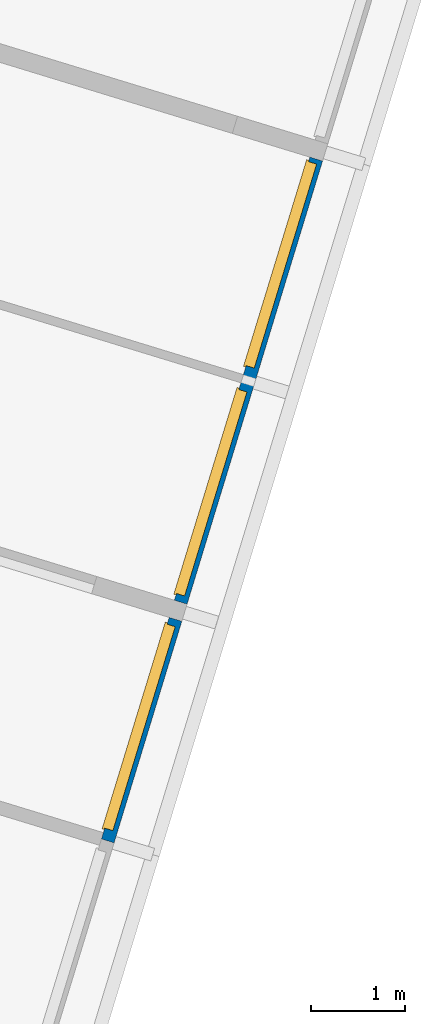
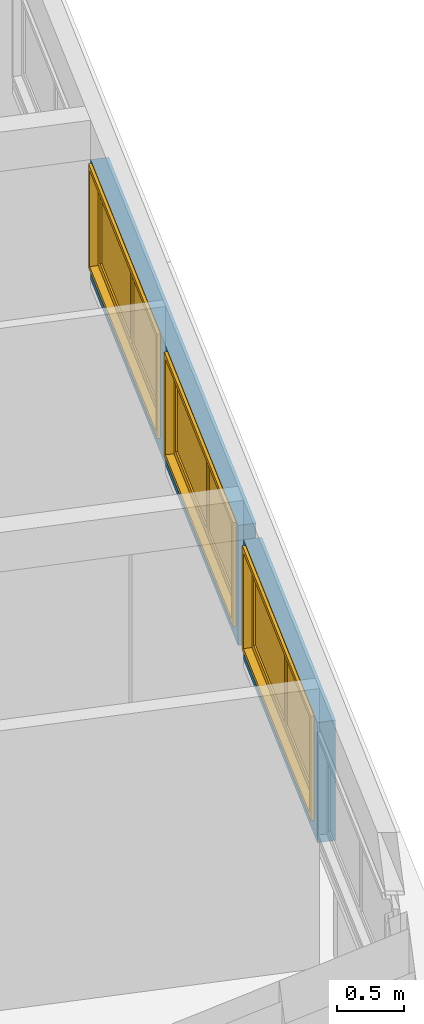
# One storey, part 8 of 18: 3 windows, 1 wall, 3 openings.
"""IFC2X3 building model written with IfcOpenShell, lengths in millimetres."""

from ifc_helpers import new_model, entity, si_unit, converted_unit, derived_unit, money_unit, direction, frame, origin_with_axes, place, context, subcontext, project, spatial, open_shell, faceted_brep, surface_model, source, transform, mapped, material, type_object, element, fill, save


model = new_model("IFC2X3")

# Units and contexts
model_context = context("Model", 3, precision=0.01, world=origin_with_axes(), true_north=direction((0.0, 1.0)))
body_context = subcontext(model_context, "Body", "Model", "MODEL_VIEW")
ifc_project = project(units=[si_unit("LENGTHUNIT", "METRE", prefix="MILLI"), si_unit("AREAUNIT", "SQUARE_METRE"), si_unit("VOLUMEUNIT", "CUBIC_METRE"), converted_unit("PLANEANGLEUNIT", "DEGREE", entity("IfcPlaneAngleMeasure", 0.0174532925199), si_unit("PLANEANGLEUNIT", "RADIAN"), dimensions=[0, 0, 0, 0, 0, 0, 0]), money_unit("USD"), converted_unit("TIMEUNIT", "Year", entity("IfcTimeMeasure", 31556926.0), si_unit("TIMEUNIT", "SECOND"), dimensions=[0, 0, 1, 0, 0, 0, 0]), si_unit("MASSUNIT", "GRAM", prefix="KILO"), si_unit("THERMODYNAMICTEMPERATUREUNIT", "DEGREE_CELSIUS"), si_unit("LUMINOUSINTENSITYUNIT", "LUMEN"), si_unit("ENERGYUNIT", "JOULE", prefix="MEGA"), derived_unit("THERMALCONDUCTANCEUNIT", [(si_unit("POWERUNIT", "WATT"), 1), (si_unit("LENGTHUNIT", "METRE"), -1), (si_unit("THERMODYNAMICTEMPERATUREUNIT", "KELVIN"), -1)]), derived_unit("SPECIFICHEATCAPACITYUNIT", [(si_unit("ENERGYUNIT", "JOULE"), 1), (si_unit("MASSUNIT", "GRAM", prefix="KILO"), -1), (si_unit("THERMODYNAMICTEMPERATUREUNIT", "KELVIN"), -1)]), derived_unit("MASSDENSITYUNIT", [(si_unit("MASSUNIT", "GRAM", prefix="KILO"), 1), (si_unit("VOLUMEUNIT", "CUBIC_METRE"), -1)])], contexts=[model_context])

# Site, building, storey, space
site_placement = place(None, frame((0.0, 0.0, 0.0), z_axis=(0.0, 0.0, 1.0), x_axis=(0.956304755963, -0.292371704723, 0.0)))
site = spatial("IfcSite", under=ifc_project, at=site_placement, Name="Site", CompositionType="ELEMENT")
building_placement = place(site_placement, origin_with_axes())
building = spatial("IfcBuilding", under=site, at=building_placement, Name="Building", CompositionType="ELEMENT")
storey_placement = place(building_placement, origin_with_axes())
storey = spatial("IfcBuildingStorey", under=building, at=storey_placement, Name="Pavimento tipo", CompositionType="ELEMENT", Elevation=0.0)
space_placement = place(storey_placement, frame((2841.71099896, 14449.9999947, 0.0), z_axis=(0.0, 0.0, 1.0), x_axis=(6.32291681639e-07, -1.0, 0.0)))
space = spatial("IfcSpace", under=storey, at=space_placement, Name="02", CompositionType="ELEMENT", InteriorOrExteriorSpace="INTERNAL")

# Wall, openings, windows
ifc_material = material(Name="Tijolo - Estrutural")
wall_type = type_object("IfcWallType", Name="Tijolo - Estrutural 140", PredefinedType="NOTDEFINED")
wall_placement = place(space_placement, frame((7554.98886297, 6599.99767243, 1100.0), z_axis=(0.0, 0.0, 1.0), x_axis=(-1.0, 6.32291681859e-07, 0.0)))
wall = element("IfcWall", 1, at=wall_placement, inside=space, type_object=wall_type, material=ifc_material, Name="Apt 02 - Parede 41", context=body_context, shape_type="Brep", body=[
    faceted_brep([(2454.97472944, 140.0, 0.0), (0.0, 140.0, 0.0), (0.0, 140.0, 1100.0), (2454.97472944, 140.0, 1100.0), (120.000011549, 140.0, 150.0), (2380.00001155, 140.0, 150.0), (2380.00001155, 140.0, 1075.0), (120.000011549, 140.0, 1075.0), (2454.97472944, 0.0, 0.0), (0.0, 0.0, 0.0), (0.0, 0.0, 1100.0), (2454.97472944, 0.0, 1100.0), (120.000011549, 0.0, 150.0), (2380.00001155, 0.0, 150.0), (2380.00001155, 0.0, 1075.0), (120.000011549, 0.0, 1075.0)], [[[0, 1, 2, 3], [4, 5, 6, 7]], [[8, 9, 1, 0]], [[1, 9, 10, 2]], [[3, 2, 10, 11]], [[11, 8, 0, 3]], [[5, 4, 12, 13]], [[14, 6, 5, 13]], [[15, 7, 6, 14]], [[4, 7, 15, 12]], [[11, 10, 9, 8], [15, 14, 13, 12]]]),
    faceted_brep([(2644.97472944, 140.0, 1100.0), (7554.97472944, 140.0, 1100.0), (7554.97472944, 140.0, 0.0), (2644.97472944, 140.0, 0.0), (4979.97281133, 140.0, 1075.0), (2719.97281133, 140.0, 1075.0), (2719.97281133, 140.0, 150.0), (4979.97281133, 140.0, 150.0), (5245.00001155, 140.0, 150.0), (7505.00001155, 140.0, 150.0), (7505.00001155, 140.0, 1075.0), (5245.00001155, 140.0, 1075.0), (2644.97472944, 0.0, 1100.0), (7554.97472944, 0.0, 1100.0), (7554.97472944, 0.0, 0.0), (2644.97472944, 0.0, 0.0), (4979.97281133, 0.0, 1075.0), (2719.97281133, 0.0, 1075.0), (2719.97281133, 0.0, 150.0), (4979.97281133, 0.0, 150.0), (5245.00001155, 0.0, 150.0), (7505.00001155, 0.0, 150.0), (7505.00001155, 0.0, 1075.0), (5245.00001155, 0.0, 1075.0)], [[[0, 1, 2, 3], [4, 5, 6, 7], [8, 9, 10, 11]], [[12, 13, 1, 0]], [[2, 1, 13, 14]], [[3, 2, 14, 15]], [[3, 15, 12, 0]], [[4, 16, 17, 5]], [[17, 18, 6, 5]], [[18, 19, 7, 6]], [[7, 19, 16, 4]], [[9, 8, 20, 21]], [[22, 10, 9, 21]], [[23, 11, 10, 22]], [[8, 11, 23, 20]], [[15, 14, 13, 12], [19, 18, 17, 16], [23, 22, 21, 20]]]),
])
opening_1_placement = place(wall_placement, frame((1250.00001155, 0.0, 150.0), z_axis=(0.0, 0.0, 1.0), x_axis=(1.0, 0.0, 0.0)))
opening_1 = element("IfcOpeningElement", 2, at=opening_1_placement, cuts=wall, Name="Apt 02 - J10", context=body_context, shape_type="Brep", body=[
    faceted_brep([(1145.0, 141.0, -15.0), (-1145.0, 141.0, -15.0), (-1145.0, 141.0, 940.0), (1145.0, 141.0, 940.0), (1145.0, 140.0, -15.0), (-1145.0, 140.0, -15.0), (-1145.0, 140.0, 940.0), (1145.0, 140.0, 940.0), (-1130.0, 140.0, 925.0), (1130.0, 140.0, 925.0), (1130.0, 140.0, 0.0), (-1130.0, 140.0, 0.0), (-1130.0, 50.0, 925.0), (-1130.0, -1.0, 925.0), (1130.0, -1.0, 925.0), (1130.0, 50.0, 925.0), (1130.0, 50.0, 0.0), (1130.0, -1.0, 0.0), (-1130.0, -1.0, 0.0), (-1130.0, 50.0, 0.0)], [[[0, 1, 2, 3]], [[4, 5, 1, 0]], [[5, 6, 2, 1]], [[6, 7, 3, 2]], [[7, 4, 0, 3]], [[6, 5, 4, 7], [8, 9, 10, 11]], [[9, 8, 12, 13, 14, 15]], [[10, 9, 15, 16]], [[11, 10, 16, 17, 18, 19]], [[8, 11, 19, 12]], [[12, 19, 18, 13]], [[13, 18, 17, 14]], [[16, 15, 14, 17]]]),
])
opening_2_placement = place(wall_placement, frame((3849.97281133, 0.0, 150.0), z_axis=(0.0, 0.0, 1.0), x_axis=(1.0, 0.0, 0.0)))
opening_2 = element("IfcOpeningElement", 3, at=opening_2_placement, cuts=wall, Name="Apt 02 - J11", context=body_context, shape_type="Brep", body=[
    faceted_brep([(-1145.0, 141.0, 940.0), (1145.0, 141.0, 940.0), (1145.0, 141.0, -15.0), (-1145.0, 141.0, -15.0), (-1145.0, 140.0, 940.0), (1145.0, 140.0, 940.0), (1145.0, 140.0, -15.0), (-1145.0, 140.0, -15.0), (-1130.0, 140.0, 925.0), (1130.0, 140.0, 925.0), (1130.0, 140.0, 0.0), (-1130.0, 140.0, 0.0), (-1130.0, 50.0, 925.0), (-1130.0, -0.999999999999, 925.0), (1130.0, -0.999999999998, 925.0), (1130.0, 50.0, 925.0), (1130.0, 50.0, 0.0), (1130.0, -0.999999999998, 0.0), (-1130.0, -0.999999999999, 0.0), (-1130.0, 50.0, 0.0)], [[[0, 1, 2, 3]], [[4, 5, 1, 0]], [[5, 6, 2, 1]], [[6, 7, 3, 2]], [[7, 4, 0, 3]], [[6, 5, 4, 7], [8, 9, 10, 11]], [[9, 8, 12, 13, 14, 15]], [[10, 9, 15, 16]], [[11, 10, 16, 17, 18, 19]], [[8, 11, 19, 12]], [[12, 19, 18, 13]], [[13, 18, 17, 14]], [[16, 15, 14, 17]]]),
])
opening_3_placement = place(wall_placement, frame((6375.00001155, 0.0, 150.0), z_axis=(0.0, 0.0, 1.0), x_axis=(1.0, 0.0, 0.0)))
opening_3 = element("IfcOpeningElement", 4, at=opening_3_placement, cuts=wall, Name="Apt 02 - J12", context=body_context, shape_type="Brep", body=[
    faceted_brep([(-1145.0, 141.0, 940.0), (1145.0, 141.0, 940.0), (1145.0, 141.0, -15.0), (-1145.0, 141.0, -15.0), (-1145.0, 140.0, 940.0), (1145.0, 140.0, 940.0), (1145.0, 140.0, -15.0), (-1145.0, 140.0, -15.0), (-1130.0, 140.0, 925.0), (1130.0, 140.0, 925.0), (1130.0, 140.0, 0.0), (-1130.0, 140.0, 0.0), (-1130.0, 50.0, 925.0), (-1130.0, -0.999999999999, 925.0), (1130.0, -0.999999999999, 925.0), (1130.0, 50.0, 925.0), (1130.0, 50.0, 0.0), (1130.0, -0.999999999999, 0.0), (-1130.0, -0.999999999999, 0.0), (-1130.0, 50.0, 0.0)], [[[0, 1, 2, 3]], [[4, 5, 1, 0]], [[5, 6, 2, 1]], [[6, 7, 3, 2]], [[7, 4, 0, 3]], [[6, 5, 4, 7], [8, 9, 10, 11]], [[9, 8, 12, 13, 14, 15]], [[10, 9, 15, 16]], [[11, 10, 16, 17, 18, 19]], [[8, 11, 19, 12]], [[12, 19, 18, 13]], [[13, 18, 17, 14]], [[16, 15, 14, 17]]]),
])
window_style_1 = type_object("IfcWindowStyle", Name="Janela 26", ConstructionType="NOTDEFINED", OperationType="DOUBLE_PANEL_VERTICAL", ParameterTakesPrecedence=False, Sizeable=False)
shared_shape_1 = source(origin_with_axes(), body_context, "Body", "SurfaceModel", [
    faceted_brep([(1130.0, 0.0, 0.0), (-1130.0, 0.0, 0.0), (-1130.0, 40.0, 0.0), (1130.0, 40.0, 0.0), (1130.0, 0.0, 925.0), (-1130.0, 0.0, 925.0), (1105.0, 0.0, 25.0), (-1105.0, 0.0, 25.0), (-1105.0, 0.0, 900.0), (1105.0, 0.0, 900.0), (-1130.0, 40.0, 925.0), (1130.0, 40.0, 925.0), (1105.0, 40.0, 25.0), (1105.0, 40.0, 900.0), (-1105.0, 40.0, 900.0), (-1105.0, 40.0, 25.0)], [[[0, 1, 2, 3]], [[0, 4, 5, 1], [6, 7, 8, 9]], [[1, 5, 10, 2]], [[3, 2, 10, 11], [12, 13, 14, 15]], [[4, 0, 3, 11]], [[5, 4, 11, 10]], [[7, 6, 12, 15]], [[8, 7, 15, 14]], [[9, 8, 14, 13]], [[6, 9, 13, 12]]]),
    faceted_brep([(1145.0, 65.0, -15.0), (1145.0, 40.0, -15.0), (1105.0, 40.0, 25.0), (1105.0, 65.0, 25.0), (1145.0, 65.0, 940.0), (1145.0, 40.0, 940.0), (1105.0, 40.0, 900.0), (1105.0, 65.0, 900.0)], [[[0, 1, 2, 3]], [[4, 5, 1, 0]], [[1, 5, 6, 2]], [[3, 2, 6, 7]], [[0, 3, 7, 4]], [[7, 6, 5, 4]]]),
    faceted_brep([(-1145.0, 65.0, 940.0), (-1145.0, 40.0, 940.0), (-1105.0, 40.0, 900.0), (-1105.0, 65.0, 900.0), (-1145.0, 65.0, -15.0), (-1145.0, 40.0, -15.0), (-1105.0, 40.0, 25.0), (-1105.0, 65.0, 25.0)], [[[0, 1, 2, 3]], [[4, 5, 1, 0]], [[1, 5, 6, 2]], [[3, 2, 6, 7]], [[0, 3, 7, 4]], [[7, 6, 5, 4]]]),
    faceted_brep([(-1145.0, 65.0, -15.0), (-1145.0, 40.0, -15.0), (-1105.0, 40.0, 25.0), (-1105.0, 65.0, 25.0), (1145.0, 65.0, -15.0), (1145.0, 40.0, -15.0), (1105.0, 40.0, 25.0), (1105.0, 65.0, 25.0)], [[[0, 1, 2, 3]], [[4, 5, 1, 0]], [[1, 5, 6, 2]], [[3, 2, 6, 7]], [[0, 3, 7, 4]], [[7, 6, 5, 4]]]),
    faceted_brep([(1145.0, 65.0, 940.0), (1145.0, 40.0, 940.0), (1105.0, 40.0, 900.0), (1105.0, 65.0, 900.0), (-1145.0, 65.0, 940.0), (-1145.0, 40.0, 940.0), (-1105.0, 40.0, 900.0), (-1105.0, 65.0, 900.0)], [[[0, 1, 2, 3]], [[4, 5, 1, 0]], [[1, 5, 6, 2]], [[3, 2, 6, 7]], [[0, 3, 7, 4]], [[7, 6, 5, 4]]]),
    faceted_brep([(1045.0, -50.0, 840.0), (1130.0, -50.0, 840.0), (1130.0, 0.0, 840.0), (1045.0, 0.0, 840.0), (1045.0, -50.0, 85.0), (1130.0, -50.0, 85.0), (1130.0, 0.0, 85.0), (1045.0, 0.0, 85.0)], [[[0, 1, 2, 3]], [[0, 4, 5, 1]], [[1, 5, 6, 2]], [[3, 2, 6, 7]], [[4, 0, 3, 7]], [[5, 4, 7, 6]]]),
    faceted_brep([(-1045.0, -50.0, 85.0), (-1130.0, -50.0, 85.0), (-1130.0, 0.0, 85.0), (-1045.0, 0.0, 85.0), (-1045.0, -50.0, 840.0), (-1130.0, -50.0, 840.0), (-1130.0, 0.0, 840.0), (-1045.0, 0.0, 840.0)], [[[0, 1, 2, 3]], [[0, 4, 5, 1]], [[1, 5, 6, 2]], [[3, 2, 6, 7]], [[4, 0, 3, 7]], [[5, 4, 7, 6]]]),
    faceted_brep([(1045.0, -50.0, 85.0), (1130.0, -50.0, 85.0), (1130.0, 0.0, 85.0), (1045.0, 0.0, 85.0), (25.0, -50.0, 85.0), (-25.0, -50.0, 85.0), (-1045.0, -50.0, 85.0), (-1130.0, -50.0, 85.0), (-1130.0, -50.0, 0.0), (1130.0, -50.0, 0.0), (1130.0, 0.0, 0.0), (-1130.0, 0.0, 0.0), (-1130.0, 0.0, 85.0), (-1045.0, 0.0, 85.0), (-25.0, 0.0, 85.0), (25.0, 0.0, 85.0)], [[[0, 1, 2, 3]], [[0, 4, 5, 6, 7, 8, 9, 1]], [[1, 9, 10, 2]], [[3, 2, 10, 11, 12, 13, 14, 15]], [[4, 0, 3, 15]], [[5, 4, 15, 14]], [[6, 5, 14, 13]], [[7, 6, 13, 12]], [[8, 7, 12, 11]], [[9, 8, 11, 10]]]),
    faceted_brep([(25.0, -50.0, 840.0), (-25.0, -50.0, 840.0), (-25.0, 0.0, 840.0), (25.0, 0.0, 840.0), (1045.0, -50.0, 840.0), (1130.0, -50.0, 840.0), (1130.0, -50.0, 925.0), (-1130.0, -50.0, 925.0), (-1130.0, -50.0, 840.0), (-1045.0, -50.0, 840.0), (-1045.0, 0.0, 840.0), (-1130.0, 0.0, 840.0), (-1130.0, 0.0, 925.0), (1130.0, 0.0, 925.0), (1130.0, 0.0, 840.0), (1045.0, 0.0, 840.0)], [[[0, 1, 2, 3]], [[0, 4, 5, 6, 7, 8, 9, 1]], [[1, 9, 10, 2]], [[3, 2, 10, 11, 12, 13, 14, 15]], [[4, 0, 3, 15]], [[5, 4, 15, 14]], [[6, 5, 14, 13]], [[7, 6, 13, 12]], [[8, 7, 12, 11]], [[9, 8, 11, 10]]]),
    faceted_brep([(25.0, -50.0, 85.0), (-25.0, -50.0, 85.0), (-25.0, 0.0, 85.0), (25.0, 0.0, 85.0), (25.0, -50.0, 840.0), (-25.0, -50.0, 840.0), (-25.0, 0.0, 840.0), (25.0, 0.0, 840.0)], [[[0, 1, 2, 3]], [[0, 4, 5, 1]], [[1, 5, 6, 2]], [[3, 2, 6, 7]], [[4, 0, 3, 7]], [[5, 4, 7, 6]]]),
    surface_model("IfcShellBasedSurfaceModel", [(-25.0, -35.0, 85.0), (-25.0, -35.0, 840.0), (-1045.0, -35.0, 840.0), (-1045.0, -35.0, 85.0)], [open_shell([[[0, 1, 2, 3]]])]),
    surface_model("IfcShellBasedSurfaceModel", [(-25.0, -15.0, 85.0), (-1045.0, -15.0, 85.0), (-1045.0, -15.0, 840.0), (-25.0, -15.0, 840.0)], [open_shell([[[0, 1, 2, 3]]])]),
    surface_model("IfcShellBasedSurfaceModel", [(1045.0, -35.0, 85.0), (1045.0, -35.0, 840.0), (25.0, -35.0, 840.0), (25.0, -35.0, 85.0)], [open_shell([[[0, 1, 2, 3]]])]),
    surface_model("IfcShellBasedSurfaceModel", [(1045.0, -15.0, 85.0), (25.0, -15.0, 85.0), (25.0, -15.0, 840.0), (1045.0, -15.0, 840.0)], [open_shell([[[0, 1, 2, 3]]])]),
])
window_1_placement = place(opening_1_placement, frame((-1130.0, 0.0, 0.0), z_axis=(0.0, 0.0, 1.0), x_axis=(1.0, 0.0, 0.0)))
window_1 = element("IfcWindow", 5, at=window_1_placement, inside=space, type_object=window_style_1, Name="Apt 02 - J10", OverallHeight=925.0, OverallWidth=2260.0, context=body_context, shape_type="MappedRepresentation", body=[
    mapped(shared_shape_1, transform((1130.0, 100.0, 0.0))),
])
fill(opening_1, window_1)
window_style_2 = type_object("IfcWindowStyle", Name="Janela 26", ConstructionType="NOTDEFINED", OperationType="DOUBLE_PANEL_VERTICAL", ParameterTakesPrecedence=False, Sizeable=False)
shared_shape_2 = source(origin_with_axes(), body_context, "Body", "SurfaceModel", [
    faceted_brep([(-1130.0, 0.0, 0.0), (-1130.0, 40.0, 0.0), (1130.0, 40.0, 0.0), (1130.0, 0.0, 0.0), (-1130.0, 0.0, 925.0), (-1130.0, 40.0, 925.0), (1130.0, 40.0, 925.0), (-1105.0, 40.0, 25.0), (1105.0, 40.0, 25.0), (1105.0, 40.0, 900.0), (-1105.0, 40.0, 900.0), (1130.0, 0.0, 925.0), (-1105.0, 0.0, 25.0), (-1105.0, 0.0, 900.0), (1105.0, 0.0, 900.0), (1105.0, 0.0, 25.0)], [[[0, 1, 2, 3]], [[4, 5, 1, 0]], [[1, 5, 6, 2], [7, 8, 9, 10]], [[3, 2, 6, 11]], [[0, 3, 11, 4], [12, 13, 14, 15]], [[11, 6, 5, 4]], [[15, 8, 7, 12]], [[14, 9, 8, 15]], [[13, 10, 9, 14]], [[12, 7, 10, 13]]]),
    faceted_brep([(-1145.0, 65.0, -15.0), (-1105.0, 65.0, 25.0), (-1105.0, 40.0, 25.0), (-1145.0, 40.0, -15.0), (-1145.0, 65.0, 940.0), (-1105.0, 65.0, 900.0), (-1105.0, 40.0, 900.0), (-1145.0, 40.0, 940.0)], [[[0, 1, 2, 3]], [[0, 4, 5, 1]], [[1, 5, 6, 2]], [[3, 2, 6, 7]], [[4, 0, 3, 7]], [[5, 4, 7, 6]]]),
    faceted_brep([(1145.0, 65.0, 940.0), (1105.0, 65.0, 900.0), (1105.0, 40.0, 900.0), (1145.0, 40.0, 940.0), (1145.0, 65.0, -15.0), (1105.0, 65.0, 25.0), (1105.0, 40.0, 25.0), (1145.0, 40.0, -15.0)], [[[0, 1, 2, 3]], [[0, 4, 5, 1]], [[1, 5, 6, 2]], [[3, 2, 6, 7]], [[4, 0, 3, 7]], [[5, 4, 7, 6]]]),
    faceted_brep([(1145.0, 65.0, -15.0), (1105.0, 65.0, 25.0), (1105.0, 40.0, 25.0), (1145.0, 40.0, -15.0), (-1145.0, 65.0, -15.0), (-1105.0, 65.0, 25.0), (-1105.0, 40.0, 25.0), (-1145.0, 40.0, -15.0)], [[[0, 1, 2, 3]], [[0, 4, 5, 1]], [[1, 5, 6, 2]], [[3, 2, 6, 7]], [[4, 0, 3, 7]], [[5, 4, 7, 6]]]),
    faceted_brep([(-1145.0, 65.0, 940.0), (-1105.0, 65.0, 900.0), (-1105.0, 40.0, 900.0), (-1145.0, 40.0, 940.0), (1145.0, 65.0, 940.0), (1105.0, 65.0, 900.0), (1105.0, 40.0, 900.0), (1145.0, 40.0, 940.0)], [[[0, 1, 2, 3]], [[0, 4, 5, 1]], [[1, 5, 6, 2]], [[3, 2, 6, 7]], [[4, 0, 3, 7]], [[5, 4, 7, 6]]]),
    faceted_brep([(-1045.0, -50.0, 840.0), (-1045.0, 0.0, 840.0), (-1130.0, 0.0, 840.0), (-1130.0, -50.0, 840.0), (-1045.0, -50.0, 85.0), (-1045.0, 0.0, 85.0), (-1130.0, 0.0, 85.0), (-1130.0, -50.0, 85.0)], [[[0, 1, 2, 3]], [[4, 5, 1, 0]], [[1, 5, 6, 2]], [[3, 2, 6, 7]], [[0, 3, 7, 4]], [[7, 6, 5, 4]]]),
    faceted_brep([(1045.0, -50.0, 85.0), (1045.0, 0.0, 85.0), (1130.0, 0.0, 85.0), (1130.0, -50.0, 85.0), (1045.0, -50.0, 840.0), (1045.0, 0.0, 840.0), (1130.0, 0.0, 840.0), (1130.0, -50.0, 840.0)], [[[0, 1, 2, 3]], [[4, 5, 1, 0]], [[1, 5, 6, 2]], [[3, 2, 6, 7]], [[0, 3, 7, 4]], [[7, 6, 5, 4]]]),
    faceted_brep([(-1045.0, -50.0, 85.0), (-1045.0, 0.0, 85.0), (-1130.0, 0.0, 85.0), (-1130.0, -50.0, 85.0), (-25.0, -50.0, 85.0), (-25.0, 0.0, 85.0), (25.0, 0.0, 85.0), (1045.0, 0.0, 85.0), (1130.0, 0.0, 85.0), (1130.0, 0.0, 0.0), (-1130.0, 0.0, 0.0), (-1130.0, -50.0, 0.0), (1130.0, -50.0, 0.0), (1130.0, -50.0, 85.0), (1045.0, -50.0, 85.0), (25.0, -50.0, 85.0)], [[[0, 1, 2, 3]], [[4, 5, 1, 0]], [[1, 5, 6, 7, 8, 9, 10, 2]], [[3, 2, 10, 11]], [[0, 3, 11, 12, 13, 14, 15, 4]], [[15, 6, 5, 4]], [[14, 7, 6, 15]], [[13, 8, 7, 14]], [[12, 9, 8, 13]], [[11, 10, 9, 12]]]),
    faceted_brep([(-25.0, -50.0, 840.0), (-25.0, 0.0, 840.0), (25.0, 0.0, 840.0), (25.0, -50.0, 840.0), (-1045.0, -50.0, 840.0), (-1045.0, 0.0, 840.0), (-1130.0, 0.0, 840.0), (-1130.0, 0.0, 925.0), (1130.0, 0.0, 925.0), (1130.0, 0.0, 840.0), (1045.0, 0.0, 840.0), (1045.0, -50.0, 840.0), (1130.0, -50.0, 840.0), (1130.0, -50.0, 925.0), (-1130.0, -50.0, 925.0), (-1130.0, -50.0, 840.0)], [[[0, 1, 2, 3]], [[4, 5, 1, 0]], [[1, 5, 6, 7, 8, 9, 10, 2]], [[3, 2, 10, 11]], [[0, 3, 11, 12, 13, 14, 15, 4]], [[15, 6, 5, 4]], [[14, 7, 6, 15]], [[13, 8, 7, 14]], [[12, 9, 8, 13]], [[11, 10, 9, 12]]]),
    faceted_brep([(-25.0, -50.0, 85.0), (-25.0, 0.0, 85.0), (25.0, 0.0, 85.0), (25.0, -50.0, 85.0), (-25.0, -50.0, 840.0), (-25.0, 0.0, 840.0), (25.0, 0.0, 840.0), (25.0, -50.0, 840.0)], [[[0, 1, 2, 3]], [[4, 5, 1, 0]], [[1, 5, 6, 2]], [[3, 2, 6, 7]], [[0, 3, 7, 4]], [[7, 6, 5, 4]]]),
    surface_model("IfcShellBasedSurfaceModel", [(25.0, -35.0, 85.0), (1045.0, -35.0, 85.0), (1045.0, -35.0, 840.0), (25.0, -35.0, 840.0)], [open_shell([[[0, 1, 2, 3]]])]),
    surface_model("IfcShellBasedSurfaceModel", [(25.0, -15.0, 85.0), (25.0, -15.0, 840.0), (1045.0, -15.0, 840.0), (1045.0, -15.0, 85.0)], [open_shell([[[0, 1, 2, 3]]])]),
    surface_model("IfcShellBasedSurfaceModel", [(-1045.0, -35.0, 85.0), (-25.0, -35.0, 85.0), (-25.0, -35.0, 840.0), (-1045.0, -35.0, 840.0)], [open_shell([[[0, 1, 2, 3]]])]),
    surface_model("IfcShellBasedSurfaceModel", [(-1045.0, -15.0, 85.0), (-1045.0, -15.0, 840.0), (-25.0, -15.0, 840.0), (-25.0, -15.0, 85.0)], [open_shell([[[0, 1, 2, 3]]])]),
])
window_2_placement = place(opening_2_placement, frame((-1130.0, 0.0, 0.0), z_axis=(0.0, 0.0, 1.0), x_axis=(1.0, 0.0, 0.0)))
window_2 = element("IfcWindow", 6, at=window_2_placement, inside=space, type_object=window_style_2, Name="Apt 02 - J11", OverallHeight=925.0, OverallWidth=2260.0, context=body_context, shape_type="MappedRepresentation", body=[
    mapped(shared_shape_2, transform((1130.0, 100.0, 0.0))),
])
fill(opening_2, window_2)
window_3_placement = place(opening_3_placement, frame((-1130.0, 0.0, 0.0), z_axis=(0.0, 0.0, 1.0), x_axis=(1.0, 0.0, 0.0)))
window_3 = element("IfcWindow", 7, at=window_3_placement, inside=space, type_object=window_style_2, Name="Apt 02 - J12", OverallHeight=925.0, OverallWidth=2260.0, context=body_context, shape_type="MappedRepresentation", body=[
    mapped(shared_shape_2, transform((1130.0, 100.0, 0.0))),
])
fill(opening_3, window_3)

save(model, "model.ifc")
